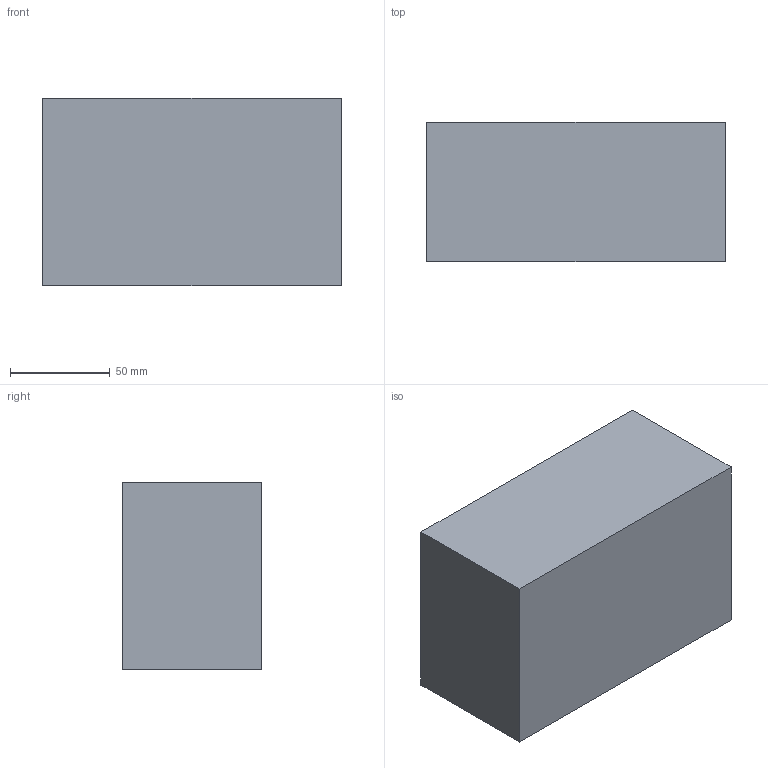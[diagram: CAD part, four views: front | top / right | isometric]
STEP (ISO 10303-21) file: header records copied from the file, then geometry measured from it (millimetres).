
FILE_DESCRIPTION(('Open CASCADE Model'),'2;1');
FILE_NAME('Open CASCADE Shape Model','2026-09-19T23:46:39',('Author'),( 'Open CASCADE'),'Open CASCADE STEP processor 7.9','Open CASCADE 7.9' ,'Unknown');
FILE_SCHEMA(('AUTOMOTIVE_DESIGN { 1 0 10303 214 1 1 1 1 }'));
Length unit declared in the file: millimetre
Products named in the file (1): Open CASCADE STEP translator 7.9 13
Bounding box: 150 x 70 x 94 mm (x, y, z)
Volume: 987000 mm3; surface area: 62360 mm2
Topology: 1 solids, 1 shells, 6 faces, 12 edges, 8 vertices
Faces by surface type: plane 6
Entity records: 322 total; most frequent: CARTESIAN_POINT 51, DIRECTION 50, LINE 36, VECTOR 36, ORIENTED_EDGE 24, PCURVE 24, DEFINITIONAL_REPRESENTATION 24, EDGE_CURVE 12
